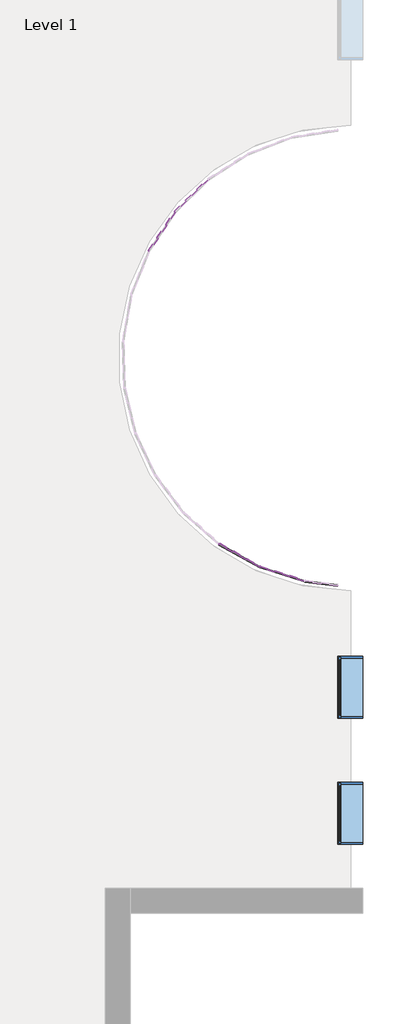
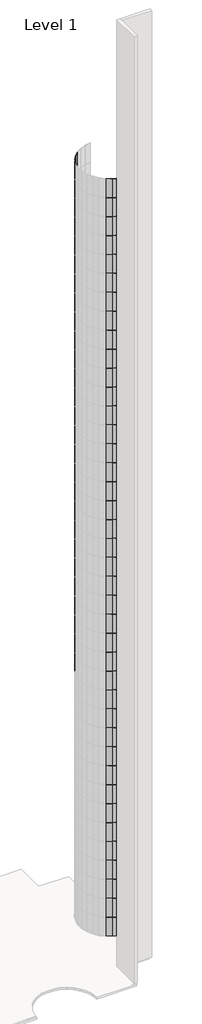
# One storey, part 13 of 19: 127 plates, 2 windows.
"""IFC4 building model written with IfcOpenShell, lengths in millimetres."""

from ifc_helpers import new_model, si_unit, origin, place, context, project, spatial, transform, mapped, element, save
from components import system_panel_glazed_d77d1ebf, system_panel_glazed_769dbdec, window_d0035ecf, window_d434eb62

model = new_model("IFC4")

# Units and contexts
model_context = context("Model", 3, world=origin())
ifc_project = project(units=[si_unit("LENGTHUNIT", "METRE", prefix="MILLI")], contexts=[model_context])

# Site, building, storey
site = spatial("IfcSite", under=ifc_project)
building = spatial("IfcBuilding", under=site)
storey = spatial("IfcBuildingStorey", under=building, Name="Level 1", Elevation=0.0)

# Plates
placement = place(None, origin())
system_panel_glazed_shape = system_panel_glazed_d77d1ebf(model_context)
element("IfcPlate", 1, ObjectType="System Panel : Glazed", at=placement, inside=storey, context=model_context, shape_type="MappedRepresentation", body=[
    mapped(system_panel_glazed_shape, transform((16593.6436197, -10047.6579112, 0.0), x_axis=(0.8722386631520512, -0.4890804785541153, 0.0), y_axis=(0.4890804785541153, 0.8722386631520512, 0.0), z_axis=(0.0, 0.0, 1.0))),
])
element("IfcPlate", 2, ObjectType="System Panel : Glazed", at=placement, inside=storey, context=model_context, shape_type="MappedRepresentation", body=[
    mapped(system_panel_glazed_shape, transform((17428.515669, -10408.6049412, 0.0), x_axis=(0.9538156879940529, -0.3003924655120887, 0.0), y_axis=(0.3003924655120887, 0.9538156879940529, 0.0), z_axis=(0.0, 0.0, 1.0))),
])
element("IfcPlate", 3, ObjectType="System Panel : Glazed", at=placement, inside=storey, context=model_context, shape_type="MappedRepresentation", body=[
    mapped(system_panel_glazed_shape, transform((16593.6436197, -10047.6579112, 3048.0), x_axis=(0.8722386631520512, -0.4890804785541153, 0.0), y_axis=(0.4890804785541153, 0.8722386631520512, 0.0), z_axis=(0.0, 0.0, 1.0))),
])
element("IfcPlate", 4, ObjectType="System Panel : Glazed", at=placement, inside=storey, context=model_context, shape_type="MappedRepresentation", body=[
    mapped(system_panel_glazed_shape, transform((17428.515669, -10408.6049412, 3048.0), x_axis=(0.9538156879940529, -0.3003924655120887, 0.0), y_axis=(0.3003924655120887, 0.9538156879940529, 0.0), z_axis=(0.0, 0.0, 1.0))),
])
element("IfcPlate", 5, ObjectType="System Panel : Glazed", at=placement, inside=storey, context=model_context, shape_type="MappedRepresentation", body=[
    mapped(system_panel_glazed_shape, transform((16593.6436197, -10047.6579112, 6096.0), x_axis=(0.8722386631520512, -0.4890804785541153, 0.0), y_axis=(0.4890804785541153, 0.8722386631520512, 0.0), z_axis=(0.0, 0.0, 1.0))),
])
element("IfcPlate", 6, ObjectType="System Panel : Glazed", at=placement, inside=storey, context=model_context, shape_type="MappedRepresentation", body=[
    mapped(system_panel_glazed_shape, transform((17428.515669, -10408.6049412, 6096.0), x_axis=(0.9538156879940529, -0.3003924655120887, 0.0), y_axis=(0.3003924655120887, 0.9538156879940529, 0.0), z_axis=(0.0, 0.0, 1.0))),
])
element("IfcPlate", 7, ObjectType="System Panel : Glazed", at=placement, inside=storey, context=model_context, shape_type="MappedRepresentation", body=[
    mapped(system_panel_glazed_shape, transform((16593.6436197, -10047.6579112, 9144.0), x_axis=(0.8722386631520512, -0.4890804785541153, 0.0), y_axis=(0.4890804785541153, 0.8722386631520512, 0.0), z_axis=(0.0, 0.0, 1.0))),
])
element("IfcPlate", 8, ObjectType="System Panel : Glazed", at=placement, inside=storey, context=model_context, shape_type="MappedRepresentation", body=[
    mapped(system_panel_glazed_shape, transform((17428.515669, -10408.6049412, 9144.0), x_axis=(0.9538156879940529, -0.3003924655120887, 0.0), y_axis=(0.3003924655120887, 0.9538156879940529, 0.0), z_axis=(0.0, 0.0, 1.0))),
])
element("IfcPlate", 9, ObjectType="System Panel : Glazed", at=placement, inside=storey, context=model_context, shape_type="MappedRepresentation", body=[
    mapped(system_panel_glazed_shape, transform((16593.6436197, -10047.6579112, 12192.0), x_axis=(0.8722386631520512, -0.4890804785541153, 0.0), y_axis=(0.4890804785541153, 0.8722386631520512, 0.0), z_axis=(0.0, 0.0, 1.0))),
])
element("IfcPlate", 10, ObjectType="System Panel : Glazed", at=placement, inside=storey, context=model_context, shape_type="MappedRepresentation", body=[
    mapped(system_panel_glazed_shape, transform((17428.515669, -10408.6049412, 12192.0), x_axis=(0.9538156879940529, -0.3003924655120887, 0.0), y_axis=(0.3003924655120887, 0.9538156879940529, 0.0), z_axis=(0.0, 0.0, 1.0))),
])
element("IfcPlate", 11, ObjectType="System Panel : Glazed", at=placement, inside=storey, context=model_context, shape_type="MappedRepresentation", body=[
    mapped(system_panel_glazed_shape, transform((16593.6436197, -10047.6579112, 15240.0), x_axis=(0.8722386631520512, -0.4890804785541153, 0.0), y_axis=(0.4890804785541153, 0.8722386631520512, 0.0), z_axis=(0.0, 0.0, 1.0))),
])
element("IfcPlate", 12, ObjectType="System Panel : Glazed", at=placement, inside=storey, context=model_context, shape_type="MappedRepresentation", body=[
    mapped(system_panel_glazed_shape, transform((17428.515669, -10408.6049412, 15240.0), x_axis=(0.9538156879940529, -0.3003924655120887, 0.0), y_axis=(0.3003924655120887, 0.9538156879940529, 0.0), z_axis=(0.0, 0.0, 1.0))),
])
element("IfcPlate", 13, ObjectType="System Panel : Glazed", at=placement, inside=storey, context=model_context, shape_type="MappedRepresentation", body=[
    mapped(system_panel_glazed_shape, transform((16593.6436197, -10047.6579112, 18288.0), x_axis=(0.8722386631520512, -0.4890804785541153, 0.0), y_axis=(0.4890804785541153, 0.8722386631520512, 0.0), z_axis=(0.0, 0.0, 1.0))),
])
element("IfcPlate", 14, ObjectType="System Panel : Glazed", at=placement, inside=storey, context=model_context, shape_type="MappedRepresentation", body=[
    mapped(system_panel_glazed_shape, transform((17428.515669, -10408.6049412, 18288.0), x_axis=(0.9538156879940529, -0.30039246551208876, 0.0), y_axis=(0.30039246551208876, 0.9538156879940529, 0.0), z_axis=(0.0, 0.0, 1.0))),
])
element("IfcPlate", 15, ObjectType="System Panel : Glazed", at=placement, inside=storey, context=model_context, shape_type="MappedRepresentation", body=[
    mapped(system_panel_glazed_shape, transform((16593.6436197, -10047.6579112, 21336.0), x_axis=(0.8722386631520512, -0.4890804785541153, 0.0), y_axis=(0.4890804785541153, 0.8722386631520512, 0.0), z_axis=(0.0, 0.0, 1.0))),
])
element("IfcPlate", 16, ObjectType="System Panel : Glazed", at=placement, inside=storey, context=model_context, shape_type="MappedRepresentation", body=[
    mapped(system_panel_glazed_shape, transform((17428.515669, -10408.6049412, 21336.0), x_axis=(0.9538156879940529, -0.3003924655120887, 0.0), y_axis=(0.3003924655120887, 0.9538156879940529, 0.0), z_axis=(0.0, 0.0, 1.0))),
])
element("IfcPlate", 17, ObjectType="System Panel : Glazed", at=placement, inside=storey, context=model_context, shape_type="MappedRepresentation", body=[
    mapped(system_panel_glazed_shape, transform((16593.6436197, -10047.6579112, 24384.0), x_axis=(0.8722386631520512, -0.4890804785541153, 0.0), y_axis=(0.4890804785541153, 0.8722386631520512, 0.0), z_axis=(0.0, 0.0, 1.0))),
])
element("IfcPlate", 18, ObjectType="System Panel : Glazed", at=placement, inside=storey, context=model_context, shape_type="MappedRepresentation", body=[
    mapped(system_panel_glazed_shape, transform((17428.515669, -10408.6049412, 24384.0), x_axis=(0.9538156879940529, -0.3003924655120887, 0.0), y_axis=(0.3003924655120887, 0.9538156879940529, 0.0), z_axis=(0.0, 0.0, 1.0))),
])
element("IfcPlate", 19, ObjectType="System Panel : Glazed", at=placement, inside=storey, context=model_context, shape_type="MappedRepresentation", body=[
    mapped(system_panel_glazed_shape, transform((16593.6436197, -10047.6579112, 27432.0), x_axis=(0.8722386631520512, -0.4890804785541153, 0.0), y_axis=(0.4890804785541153, 0.8722386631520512, 0.0), z_axis=(0.0, 0.0, 1.0))),
])
element("IfcPlate", 20, ObjectType="System Panel : Glazed", at=placement, inside=storey, context=model_context, shape_type="MappedRepresentation", body=[
    mapped(system_panel_glazed_shape, transform((17428.515669, -10408.6049412, 27432.0), x_axis=(0.9538156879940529, -0.3003924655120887, 0.0), y_axis=(0.3003924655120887, 0.9538156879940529, 0.0), z_axis=(0.0, 0.0, 1.0))),
])
element("IfcPlate", 21, ObjectType="System Panel : Glazed", at=placement, inside=storey, context=model_context, shape_type="MappedRepresentation", body=[
    mapped(system_panel_glazed_shape, transform((16593.6436197, -10047.6579112, 30480.0), x_axis=(0.8722386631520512, -0.4890804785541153, 0.0), y_axis=(0.4890804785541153, 0.8722386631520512, 0.0), z_axis=(0.0, 0.0, 1.0))),
])
element("IfcPlate", 22, ObjectType="System Panel : Glazed", at=placement, inside=storey, context=model_context, shape_type="MappedRepresentation", body=[
    mapped(system_panel_glazed_shape, transform((17428.515669, -10408.6049412, 30480.0), x_axis=(0.9538156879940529, -0.3003924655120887, 0.0), y_axis=(0.3003924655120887, 0.9538156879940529, 0.0), z_axis=(0.0, 0.0, 1.0))),
])
element("IfcPlate", 23, ObjectType="System Panel : Glazed", at=placement, inside=storey, context=model_context, shape_type="MappedRepresentation", body=[
    mapped(system_panel_glazed_shape, transform((16593.6436197, -10047.6579112, 33528.0), x_axis=(0.8722386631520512, -0.4890804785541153, 0.0), y_axis=(0.4890804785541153, 0.8722386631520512, 0.0), z_axis=(0.0, 0.0, 1.0))),
])
element("IfcPlate", 24, ObjectType="System Panel : Glazed", at=placement, inside=storey, context=model_context, shape_type="MappedRepresentation", body=[
    mapped(system_panel_glazed_shape, transform((17428.515669, -10408.6049412, 33528.0), x_axis=(0.9538156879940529, -0.3003924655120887, 0.0), y_axis=(0.3003924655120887, 0.9538156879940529, 0.0), z_axis=(0.0, 0.0, 1.0))),
])
element("IfcPlate", 25, ObjectType="System Panel : Glazed", at=placement, inside=storey, context=model_context, shape_type="MappedRepresentation", body=[
    mapped(system_panel_glazed_shape, transform((16593.6436197, -10047.6579112, 36576.0), x_axis=(0.8722386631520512, -0.4890804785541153, 0.0), y_axis=(0.4890804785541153, 0.8722386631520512, 0.0), z_axis=(0.0, 0.0, 1.0))),
])
element("IfcPlate", 26, ObjectType="System Panel : Glazed", at=placement, inside=storey, context=model_context, shape_type="MappedRepresentation", body=[
    mapped(system_panel_glazed_shape, transform((17428.515669, -10408.6049412, 36576.0), x_axis=(0.9538156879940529, -0.3003924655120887, 0.0), y_axis=(0.3003924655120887, 0.9538156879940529, 0.0), z_axis=(0.0, 0.0, 1.0))),
])
element("IfcPlate", 27, ObjectType="System Panel : Glazed", at=placement, inside=storey, context=model_context, shape_type="MappedRepresentation", body=[
    mapped(system_panel_glazed_shape, transform((16593.6436197, -10047.6579112, 39624.0), x_axis=(0.8722386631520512, -0.4890804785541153, 0.0), y_axis=(0.4890804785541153, 0.8722386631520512, 0.0), z_axis=(0.0, 0.0, 1.0))),
])
element("IfcPlate", 28, ObjectType="System Panel : Glazed", at=placement, inside=storey, context=model_context, shape_type="MappedRepresentation", body=[
    mapped(system_panel_glazed_shape, transform((17428.515669, -10408.6049412, 39624.0), x_axis=(0.9538156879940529, -0.3003924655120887, 0.0), y_axis=(0.3003924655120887, 0.9538156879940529, 0.0), z_axis=(0.0, 0.0, 1.0))),
])
element("IfcPlate", 29, ObjectType="System Panel : Glazed", at=placement, inside=storey, context=model_context, shape_type="MappedRepresentation", body=[
    mapped(system_panel_glazed_shape, transform((16593.6436197, -10047.6579112, 42672.0), x_axis=(0.8722386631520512, -0.4890804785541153, 0.0), y_axis=(0.4890804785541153, 0.8722386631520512, 0.0), z_axis=(0.0, 0.0, 1.0))),
])
element("IfcPlate", 30, ObjectType="System Panel : Glazed", at=placement, inside=storey, context=model_context, shape_type="MappedRepresentation", body=[
    mapped(system_panel_glazed_shape, transform((17428.515669, -10408.6049412, 42672.0), x_axis=(0.9538156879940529, -0.3003924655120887, 0.0), y_axis=(0.3003924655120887, 0.9538156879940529, 0.0), z_axis=(0.0, 0.0, 1.0))),
])
element("IfcPlate", 31, ObjectType="System Panel : Glazed", at=placement, inside=storey, context=model_context, shape_type="MappedRepresentation", body=[
    mapped(system_panel_glazed_shape, transform((16593.6436197, -10047.6579112, 45720.0), x_axis=(0.8722386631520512, -0.4890804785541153, 0.0), y_axis=(0.4890804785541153, 0.8722386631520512, 0.0), z_axis=(0.0, 0.0, 1.0))),
])
element("IfcPlate", 32, ObjectType="System Panel : Glazed", at=placement, inside=storey, context=model_context, shape_type="MappedRepresentation", body=[
    mapped(system_panel_glazed_shape, transform((17428.515669, -10408.6049412, 45720.0), x_axis=(0.9538156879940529, -0.3003924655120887, 0.0), y_axis=(0.3003924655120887, 0.9538156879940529, 0.0), z_axis=(0.0, 0.0, 1.0))),
])
element("IfcPlate", 33, ObjectType="System Panel : Glazed", at=placement, inside=storey, context=model_context, shape_type="MappedRepresentation", body=[
    mapped(system_panel_glazed_shape, transform((16593.6436197, -10047.6579112, 48768.0), x_axis=(0.8722386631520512, -0.4890804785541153, 0.0), y_axis=(0.4890804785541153, 0.8722386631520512, 0.0), z_axis=(0.0, 0.0, 1.0))),
])
element("IfcPlate", 34, ObjectType="System Panel : Glazed", at=placement, inside=storey, context=model_context, shape_type="MappedRepresentation", body=[
    mapped(system_panel_glazed_shape, transform((17428.515669, -10408.6049412, 48768.0), x_axis=(0.9538156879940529, -0.3003924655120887, 0.0), y_axis=(0.3003924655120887, 0.9538156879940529, 0.0), z_axis=(0.0, 0.0, 1.0))),
])
element("IfcPlate", 35, ObjectType="System Panel : Glazed", at=placement, inside=storey, context=model_context, shape_type="MappedRepresentation", body=[
    mapped(system_panel_glazed_shape, transform((16593.6436197, -10047.6579112, 51816.0), x_axis=(0.8722386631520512, -0.4890804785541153, 0.0), y_axis=(0.4890804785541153, 0.8722386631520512, 0.0), z_axis=(0.0, 0.0, 1.0))),
])
element("IfcPlate", 36, ObjectType="System Panel : Glazed", at=placement, inside=storey, context=model_context, shape_type="MappedRepresentation", body=[
    mapped(system_panel_glazed_shape, transform((17428.515669, -10408.6049412, 51816.0), x_axis=(0.9538156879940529, -0.3003924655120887, 0.0), y_axis=(0.3003924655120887, 0.9538156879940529, 0.0), z_axis=(0.0, 0.0, 1.0))),
])
element("IfcPlate", 37, ObjectType="System Panel : Glazed", at=placement, inside=storey, context=model_context, shape_type="MappedRepresentation", body=[
    mapped(system_panel_glazed_shape, transform((16593.6436197, -10047.6579112, 54864.0), x_axis=(0.8722386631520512, -0.4890804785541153, 0.0), y_axis=(0.4890804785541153, 0.8722386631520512, 0.0), z_axis=(0.0, 0.0, 1.0))),
])
element("IfcPlate", 38, ObjectType="System Panel : Glazed", at=placement, inside=storey, context=model_context, shape_type="MappedRepresentation", body=[
    mapped(system_panel_glazed_shape, transform((17428.515669, -10408.6049412, 54864.0), x_axis=(0.9538156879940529, -0.3003924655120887, 0.0), y_axis=(0.3003924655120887, 0.9538156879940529, 0.0), z_axis=(0.0, 0.0, 1.0))),
])
element("IfcPlate", 39, ObjectType="System Panel : Glazed", at=placement, inside=storey, context=model_context, shape_type="MappedRepresentation", body=[
    mapped(system_panel_glazed_shape, transform((16593.6436197, -10047.6579112, 57912.0), x_axis=(0.8722386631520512, -0.4890804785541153, 0.0), y_axis=(0.4890804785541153, 0.8722386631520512, 0.0), z_axis=(0.0, 0.0, 1.0))),
])
element("IfcPlate", 40, ObjectType="System Panel : Glazed", at=placement, inside=storey, context=model_context, shape_type="MappedRepresentation", body=[
    mapped(system_panel_glazed_shape, transform((17428.515669, -10408.6049412, 57912.0), x_axis=(0.9538156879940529, -0.3003924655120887, 0.0), y_axis=(0.3003924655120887, 0.9538156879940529, 0.0), z_axis=(0.0, 0.0, 1.0))),
])
element("IfcPlate", 41, ObjectType="System Panel : Glazed", at=placement, inside=storey, context=model_context, shape_type="MappedRepresentation", body=[
    mapped(system_panel_glazed_shape, transform((16593.6436197, -10047.6579112, 60960.0), x_axis=(0.8722386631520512, -0.4890804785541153, 0.0), y_axis=(0.4890804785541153, 0.8722386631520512, 0.0), z_axis=(0.0, 0.0, 1.0))),
])
element("IfcPlate", 42, ObjectType="System Panel : Glazed", at=placement, inside=storey, context=model_context, shape_type="MappedRepresentation", body=[
    mapped(system_panel_glazed_shape, transform((17428.515669, -10408.6049412, 60960.0), x_axis=(0.9538156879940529, -0.3003924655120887, 0.0), y_axis=(0.3003924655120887, 0.9538156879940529, 0.0), z_axis=(0.0, 0.0, 1.0))),
])
element("IfcPlate", 43, ObjectType="System Panel : Glazed", at=placement, inside=storey, context=model_context, shape_type="MappedRepresentation", body=[
    mapped(system_panel_glazed_shape, transform((16593.6436197, -10047.6579112, 64008.0), x_axis=(0.8722386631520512, -0.4890804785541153, 0.0), y_axis=(0.4890804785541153, 0.8722386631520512, 0.0), z_axis=(0.0, 0.0, 1.0))),
])
element("IfcPlate", 44, ObjectType="System Panel : Glazed", at=placement, inside=storey, context=model_context, shape_type="MappedRepresentation", body=[
    mapped(system_panel_glazed_shape, transform((17428.515669, -10408.6049412, 64008.0), x_axis=(0.9538156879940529, -0.3003924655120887, 0.0), y_axis=(0.3003924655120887, 0.9538156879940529, 0.0), z_axis=(0.0, 0.0, 1.0))),
])
element("IfcPlate", 45, ObjectType="System Panel : Glazed", at=placement, inside=storey, context=model_context, shape_type="MappedRepresentation", body=[
    mapped(system_panel_glazed_shape, transform((16593.6436197, -10047.6579112, 67056.0), x_axis=(0.8722386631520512, -0.4890804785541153, 0.0), y_axis=(0.4890804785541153, 0.8722386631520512, 0.0), z_axis=(0.0, 0.0, 1.0))),
])
element("IfcPlate", 46, ObjectType="System Panel : Glazed", at=placement, inside=storey, context=model_context, shape_type="MappedRepresentation", body=[
    mapped(system_panel_glazed_shape, transform((17428.515669, -10408.6049412, 67056.0), x_axis=(0.9538156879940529, -0.3003924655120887, 0.0), y_axis=(0.3003924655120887, 0.9538156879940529, 0.0), z_axis=(0.0, 0.0, 1.0))),
])
element("IfcPlate", 47, ObjectType="System Panel : Glazed", at=placement, inside=storey, context=model_context, shape_type="MappedRepresentation", body=[
    mapped(system_panel_glazed_shape, transform((16593.6436197, -10047.6579112, 70104.0), x_axis=(0.8722386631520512, -0.4890804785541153, 0.0), y_axis=(0.4890804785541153, 0.8722386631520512, 0.0), z_axis=(0.0, 0.0, 1.0))),
])
element("IfcPlate", 48, ObjectType="System Panel : Glazed", at=placement, inside=storey, context=model_context, shape_type="MappedRepresentation", body=[
    mapped(system_panel_glazed_shape, transform((17428.515669, -10408.6049412, 70104.0), x_axis=(0.9538156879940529, -0.3003924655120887, 0.0), y_axis=(0.3003924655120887, 0.9538156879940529, 0.0), z_axis=(0.0, 0.0, 1.0))),
])
element("IfcPlate", 49, ObjectType="System Panel : Glazed", at=placement, inside=storey, context=model_context, shape_type="MappedRepresentation", body=[
    mapped(system_panel_glazed_shape, transform((16593.6436197, -10047.6579112, 73152.0), x_axis=(0.8722386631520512, -0.4890804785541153, 0.0), y_axis=(0.4890804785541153, 0.8722386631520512, 0.0), z_axis=(0.0, 0.0, 1.0))),
])
element("IfcPlate", 50, ObjectType="System Panel : Glazed", at=placement, inside=storey, context=model_context, shape_type="MappedRepresentation", body=[
    mapped(system_panel_glazed_shape, transform((17428.515669, -10408.6049412, 73152.0), x_axis=(0.9538156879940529, -0.3003924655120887, 0.0), y_axis=(0.3003924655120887, 0.9538156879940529, 0.0), z_axis=(0.0, 0.0, 1.0))),
])
element("IfcPlate", 51, ObjectType="System Panel : Glazed", at=placement, inside=storey, context=model_context, shape_type="MappedRepresentation", body=[
    mapped(system_panel_glazed_shape, transform((16593.6436197, -10047.6579112, 76200.0), x_axis=(0.8722386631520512, -0.4890804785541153, 0.0), y_axis=(0.4890804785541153, 0.8722386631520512, 0.0), z_axis=(0.0, 0.0, 1.0))),
])
element("IfcPlate", 52, ObjectType="System Panel : Glazed", at=placement, inside=storey, context=model_context, shape_type="MappedRepresentation", body=[
    mapped(system_panel_glazed_shape, transform((17428.515669, -10408.6049412, 76200.0), x_axis=(0.9538156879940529, -0.3003924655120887, 0.0), y_axis=(0.3003924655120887, 0.9538156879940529, 0.0), z_axis=(0.0, 0.0, 1.0))),
])
element("IfcPlate", 53, ObjectType="System Panel : Glazed", at=placement, inside=storey, context=model_context, shape_type="MappedRepresentation", body=[
    mapped(system_panel_glazed_shape, transform((16593.6436197, -10047.6579112, 79248.0), x_axis=(0.8722386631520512, -0.4890804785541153, 0.0), y_axis=(0.4890804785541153, 0.8722386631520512, 0.0), z_axis=(0.0, 0.0, 1.0))),
])
element("IfcPlate", 54, ObjectType="System Panel : Glazed", at=placement, inside=storey, context=model_context, shape_type="MappedRepresentation", body=[
    mapped(system_panel_glazed_shape, transform((17428.515669, -10408.6049412, 79248.0), x_axis=(0.9538156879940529, -0.3003924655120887, 0.0), y_axis=(0.3003924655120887, 0.9538156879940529, 0.0), z_axis=(0.0, 0.0, 1.0))),
])
element("IfcPlate", 55, ObjectType="System Panel : Glazed", at=placement, inside=storey, context=model_context, shape_type="MappedRepresentation", body=[
    mapped(system_panel_glazed_shape, transform((16593.6436197, -10047.6579112, 82296.0), x_axis=(0.8722386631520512, -0.4890804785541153, 0.0), y_axis=(0.4890804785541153, 0.8722386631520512, 0.0), z_axis=(0.0, 0.0, 1.0))),
])
element("IfcPlate", 56, ObjectType="System Panel : Glazed", at=placement, inside=storey, context=model_context, shape_type="MappedRepresentation", body=[
    mapped(system_panel_glazed_shape, transform((17428.515669, -10408.6049412, 82296.0), x_axis=(0.9538156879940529, -0.3003924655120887, 0.0), y_axis=(0.3003924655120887, 0.9538156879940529, 0.0), z_axis=(0.0, 0.0, 1.0))),
])
element("IfcPlate", 57, ObjectType="System Panel : Glazed", at=placement, inside=storey, context=model_context, shape_type="MappedRepresentation", body=[
    mapped(system_panel_glazed_shape, transform((16593.6436197, -10047.6579112, 85344.0), x_axis=(0.8722386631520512, -0.4890804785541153, 0.0), y_axis=(0.4890804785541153, 0.8722386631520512, 0.0), z_axis=(0.0, 0.0, 1.0))),
])
element("IfcPlate", 58, ObjectType="System Panel : Glazed", at=placement, inside=storey, context=model_context, shape_type="MappedRepresentation", body=[
    mapped(system_panel_glazed_shape, transform((17428.515669, -10408.6049412, 85344.0), x_axis=(0.9538156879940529, -0.3003924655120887, 0.0), y_axis=(0.3003924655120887, 0.9538156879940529, 0.0), z_axis=(0.0, 0.0, 1.0))),
])
element("IfcPlate", 59, ObjectType="System Panel : Glazed", at=placement, inside=storey, context=model_context, shape_type="MappedRepresentation", body=[
    mapped(system_panel_glazed_shape, transform((16593.6436197, -10047.6579112, 88392.0), x_axis=(0.8722386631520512, -0.4890804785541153, 0.0), y_axis=(0.4890804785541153, 0.8722386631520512, 0.0), z_axis=(0.0, 0.0, 1.0))),
])
element("IfcPlate", 60, ObjectType="System Panel : Glazed", at=placement, inside=storey, context=model_context, shape_type="MappedRepresentation", body=[
    mapped(system_panel_glazed_shape, transform((17428.515669, -10408.6049412, 88392.0), x_axis=(0.9538156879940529, -0.3003924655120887, 0.0), y_axis=(0.3003924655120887, 0.9538156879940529, 0.0), z_axis=(0.0, 0.0, 1.0))),
])
element("IfcPlate", 61, ObjectType="System Panel : Glazed", at=placement, inside=storey, context=model_context, shape_type="MappedRepresentation", body=[
    mapped(system_panel_glazed_shape, transform((16593.6436197, -10047.6579112, 91440.0), x_axis=(0.8722386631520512, -0.4890804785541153, 0.0), y_axis=(0.4890804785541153, 0.8722386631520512, 0.0), z_axis=(0.0, 0.0, 1.0))),
])
element("IfcPlate", 62, ObjectType="System Panel : Glazed", at=placement, inside=storey, context=model_context, shape_type="MappedRepresentation", body=[
    mapped(system_panel_glazed_shape, transform((17428.515669, -10408.6049412, 91440.0), x_axis=(0.9538156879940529, -0.3003924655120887, 0.0), y_axis=(0.3003924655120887, 0.9538156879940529, 0.0), z_axis=(0.0, 0.0, 1.0))),
])
element("IfcPlate", 63, ObjectType="System Panel : Glazed", at=placement, inside=storey, context=model_context, shape_type="MappedRepresentation", body=[
    mapped(system_panel_glazed_shape, transform((16593.6436197, -10047.6579112, 94488.0), x_axis=(0.8722386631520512, -0.4890804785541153, 0.0), y_axis=(0.4890804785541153, 0.8722386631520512, 0.0), z_axis=(0.0, 0.0, 1.0))),
])
element("IfcPlate", 64, ObjectType="System Panel : Glazed", at=placement, inside=storey, context=model_context, shape_type="MappedRepresentation", body=[
    mapped(system_panel_glazed_shape, transform((17428.515669, -10408.6049412, 94488.0), x_axis=(0.9538156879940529, -0.3003924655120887, 0.0), y_axis=(0.3003924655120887, 0.9538156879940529, 0.0), z_axis=(0.0, 0.0, 1.0))),
])
element("IfcPlate", 65, ObjectType="System Panel : Glazed", at=placement, inside=storey, context=model_context, shape_type="MappedRepresentation", body=[
    mapped(system_panel_glazed_shape, transform((16593.6436197, -10047.6579112, 97536.0), x_axis=(0.8722386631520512, -0.4890804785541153, 0.0), y_axis=(0.4890804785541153, 0.8722386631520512, 0.0), z_axis=(0.0, 0.0, 1.0))),
])
element("IfcPlate", 66, ObjectType="System Panel : Glazed", at=placement, inside=storey, context=model_context, shape_type="MappedRepresentation", body=[
    mapped(system_panel_glazed_shape, transform((17428.515669, -10408.6049412, 97536.0), x_axis=(0.9538156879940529, -0.3003924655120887, 0.0), y_axis=(0.3003924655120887, 0.9538156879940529, 0.0), z_axis=(0.0, 0.0, 1.0))),
])
element("IfcPlate", 67, ObjectType="System Panel : Glazed", at=placement, inside=storey, context=model_context, shape_type="MappedRepresentation", body=[
    mapped(system_panel_glazed_shape, transform((16593.6436197, -10047.6579112, 100584.0), x_axis=(0.8722386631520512, -0.4890804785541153, 0.0), y_axis=(0.4890804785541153, 0.8722386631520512, 0.0), z_axis=(0.0, 0.0, 1.0))),
])
element("IfcPlate", 68, ObjectType="System Panel : Glazed", at=placement, inside=storey, context=model_context, shape_type="MappedRepresentation", body=[
    mapped(system_panel_glazed_shape, transform((17428.515669, -10408.6049412, 100584.0), x_axis=(0.9538156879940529, -0.3003924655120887, 0.0), y_axis=(0.3003924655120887, 0.9538156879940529, 0.0), z_axis=(0.0, 0.0, 1.0))),
])
element("IfcPlate", 69, ObjectType="System Panel : Glazed", at=placement, inside=storey, context=model_context, shape_type="MappedRepresentation", body=[
    mapped(system_panel_glazed_shape, transform((15075.3618251, -3735.1593958, 39624.0), x_axis=(-0.5544383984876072, -0.8322247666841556, 0.0), y_axis=(0.8322247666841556, -0.5544383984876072, 0.0), z_axis=(0.0, 0.0, 1.0))),
])
element("IfcPlate", 70, ObjectType="System Panel : Glazed", at=placement, inside=storey, context=model_context, shape_type="MappedRepresentation", body=[
    mapped(system_panel_glazed_shape, transform((15075.3618251, -3735.1593958, 42672.0), x_axis=(-0.5544383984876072, -0.8322247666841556, 0.0), y_axis=(0.8322247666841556, -0.5544383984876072, 0.0), z_axis=(0.0, 0.0, 1.0))),
])
element("IfcPlate", 71, ObjectType="System Panel : Glazed", at=placement, inside=storey, context=model_context, shape_type="MappedRepresentation", body=[
    mapped(system_panel_glazed_shape, transform((15075.3618251, -3735.1593958, 45720.0), x_axis=(-0.5544383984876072, -0.8322247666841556, 0.0), y_axis=(0.8322247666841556, -0.5544383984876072, 0.0), z_axis=(0.0, 0.0, 1.0))),
])
element("IfcPlate", 72, ObjectType="System Panel : Glazed", at=placement, inside=storey, context=model_context, shape_type="MappedRepresentation", body=[
    mapped(system_panel_glazed_shape, transform((15075.3618251, -3735.1593958, 48768.0), x_axis=(-0.5544383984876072, -0.8322247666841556, 0.0), y_axis=(0.8322247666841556, -0.5544383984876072, 0.0), z_axis=(0.0, 0.0, 1.0))),
])
element("IfcPlate", 73, ObjectType="System Panel : Glazed", at=placement, inside=storey, context=model_context, shape_type="MappedRepresentation", body=[
    mapped(system_panel_glazed_shape, transform((15075.3618251, -3735.1593958, 51816.0), x_axis=(-0.5544383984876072, -0.8322247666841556, 0.0), y_axis=(0.8322247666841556, -0.5544383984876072, 0.0), z_axis=(0.0, 0.0, 1.0))),
])
element("IfcPlate", 74, ObjectType="System Panel : Glazed", at=placement, inside=storey, context=model_context, shape_type="MappedRepresentation", body=[
    mapped(system_panel_glazed_shape, transform((15075.3618251, -3735.1593958, 54864.0), x_axis=(-0.5544383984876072, -0.8322247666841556, 0.0), y_axis=(0.8322247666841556, -0.5544383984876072, 0.0), z_axis=(0.0, 0.0, 1.0))),
])
element("IfcPlate", 75, ObjectType="System Panel : Glazed", at=placement, inside=storey, context=model_context, shape_type="MappedRepresentation", body=[
    mapped(system_panel_glazed_shape, transform((15075.3618251, -3735.1593958, 57912.0), x_axis=(-0.5544383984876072, -0.8322247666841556, 0.0), y_axis=(0.8322247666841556, -0.5544383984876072, 0.0), z_axis=(0.0, 0.0, 1.0))),
])
element("IfcPlate", 76, ObjectType="System Panel : Glazed", at=placement, inside=storey, context=model_context, shape_type="MappedRepresentation", body=[
    mapped(system_panel_glazed_shape, transform((15075.3618251, -3735.1593958, 60960.0), x_axis=(-0.5544383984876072, -0.8322247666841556, 0.0), y_axis=(0.8322247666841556, -0.5544383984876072, 0.0), z_axis=(0.0, 0.0, 1.0))),
])
element("IfcPlate", 77, ObjectType="System Panel : Glazed", at=placement, inside=storey, context=model_context, shape_type="MappedRepresentation", body=[
    mapped(system_panel_glazed_shape, transform((15075.3618251, -3735.1593958, 64008.0), x_axis=(-0.5544383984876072, -0.8322247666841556, 0.0), y_axis=(0.8322247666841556, -0.5544383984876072, 0.0), z_axis=(0.0, 0.0, 1.0))),
])
element("IfcPlate", 78, ObjectType="System Panel : Glazed", at=placement, inside=storey, context=model_context, shape_type="MappedRepresentation", body=[
    mapped(system_panel_glazed_shape, transform((15075.3618251, -3735.1593958, 67056.0), x_axis=(-0.5544383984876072, -0.8322247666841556, 0.0), y_axis=(0.8322247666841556, -0.5544383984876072, 0.0), z_axis=(0.0, 0.0, 1.0))),
])
element("IfcPlate", 79, ObjectType="System Panel : Glazed", at=placement, inside=storey, context=model_context, shape_type="MappedRepresentation", body=[
    mapped(system_panel_glazed_shape, transform((15075.3618251, -3735.1593958, 70104.0), x_axis=(-0.5544383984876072, -0.8322247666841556, 0.0), y_axis=(0.8322247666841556, -0.5544383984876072, 0.0), z_axis=(0.0, 0.0, 1.0))),
])
element("IfcPlate", 80, ObjectType="System Panel : Glazed", at=placement, inside=storey, context=model_context, shape_type="MappedRepresentation", body=[
    mapped(system_panel_glazed_shape, transform((15075.3618251, -3735.1593958, 73152.0), x_axis=(-0.5544383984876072, -0.8322247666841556, 0.0), y_axis=(0.8322247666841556, -0.5544383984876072, 0.0), z_axis=(0.0, 0.0, 1.0))),
])
element("IfcPlate", 81, ObjectType="System Panel : Glazed", at=placement, inside=storey, context=model_context, shape_type="MappedRepresentation", body=[
    mapped(system_panel_glazed_shape, transform((15075.3618251, -3735.1593958, 76200.0), x_axis=(-0.5544383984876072, -0.8322247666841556, 0.0), y_axis=(0.8322247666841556, -0.5544383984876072, 0.0), z_axis=(0.0, 0.0, 1.0))),
])
element("IfcPlate", 82, ObjectType="System Panel : Glazed", at=placement, inside=storey, context=model_context, shape_type="MappedRepresentation", body=[
    mapped(system_panel_glazed_shape, transform((15075.3618251, -3735.1593958, 79248.0), x_axis=(-0.5544383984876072, -0.8322247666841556, 0.0), y_axis=(0.8322247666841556, -0.5544383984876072, 0.0), z_axis=(0.0, 0.0, 1.0))),
])
element("IfcPlate", 83, ObjectType="System Panel : Glazed", at=placement, inside=storey, context=model_context, shape_type="MappedRepresentation", body=[
    mapped(system_panel_glazed_shape, transform((15075.3618251, -3735.1593958, 82296.0), x_axis=(-0.5544383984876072, -0.8322247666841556, 0.0), y_axis=(0.8322247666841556, -0.5544383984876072, 0.0), z_axis=(0.0, 0.0, 1.0))),
])
element("IfcPlate", 84, ObjectType="System Panel : Glazed", at=placement, inside=storey, context=model_context, shape_type="MappedRepresentation", body=[
    mapped(system_panel_glazed_shape, transform((15075.3618251, -3735.1593958, 85344.0), x_axis=(-0.5544383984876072, -0.8322247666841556, 0.0), y_axis=(0.8322247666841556, -0.5544383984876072, 0.0), z_axis=(0.0, 0.0, 1.0))),
])
element("IfcPlate", 85, ObjectType="System Panel : Glazed", at=placement, inside=storey, context=model_context, shape_type="MappedRepresentation", body=[
    mapped(system_panel_glazed_shape, transform((15075.3618251, -3735.1593958, 88392.0), x_axis=(-0.5544383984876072, -0.8322247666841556, 0.0), y_axis=(0.8322247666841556, -0.5544383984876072, 0.0), z_axis=(0.0, 0.0, 1.0))),
])
element("IfcPlate", 86, ObjectType="System Panel : Glazed", at=placement, inside=storey, context=model_context, shape_type="MappedRepresentation", body=[
    mapped(system_panel_glazed_shape, transform((15075.3618251, -3735.1593958, 91440.0), x_axis=(-0.5544383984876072, -0.8322247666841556, 0.0), y_axis=(0.8322247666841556, -0.5544383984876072, 0.0), z_axis=(0.0, 0.0, 1.0))),
])
element("IfcPlate", 87, ObjectType="System Panel : Glazed", at=placement, inside=storey, context=model_context, shape_type="MappedRepresentation", body=[
    mapped(system_panel_glazed_shape, transform((15075.3618251, -3735.1593958, 94488.0), x_axis=(-0.5544383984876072, -0.8322247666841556, 0.0), y_axis=(0.8322247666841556, -0.5544383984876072, 0.0), z_axis=(0.0, 0.0, 1.0))),
])
element("IfcPlate", 88, ObjectType="System Panel : Glazed", at=placement, inside=storey, context=model_context, shape_type="MappedRepresentation", body=[
    mapped(system_panel_glazed_shape, transform((15075.3618251, -3735.1593958, 97536.0), x_axis=(-0.5544383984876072, -0.8322247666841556, 0.0), y_axis=(0.8322247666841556, -0.5544383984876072, 0.0), z_axis=(0.0, 0.0, 1.0))),
])
element("IfcPlate", 89, ObjectType="System Panel : Glazed", at=placement, inside=storey, context=model_context, shape_type="MappedRepresentation", body=[
    mapped(system_panel_glazed_shape, transform((15075.3618251, -3735.1593958, 100584.0), x_axis=(-0.5544383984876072, -0.8322247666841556, 0.0), y_axis=(0.8322247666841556, -0.5544383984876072, 0.0), z_axis=(0.0, 0.0, 1.0))),
])
element("IfcPlate", 90, ObjectType="System Panel : Glazed", at=placement, inside=storey, context=model_context, shape_type="MappedRepresentation", body=[
    mapped(system_panel_glazed_shape, transform((15654.787077, -3034.0456569, 103632.0), x_axis=(-0.7128959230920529, -0.701269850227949, 0.0), y_axis=(0.701269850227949, -0.7128959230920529, 0.0), z_axis=(0.0, 0.0, 1.0))),
])
element("IfcPlate", 91, ObjectType="System Panel : Glazed", at=placement, inside=storey, context=model_context, shape_type="MappedRepresentation", body=[
    mapped(system_panel_glazed_shape, transform((15075.3618251, -3735.1593958, 103632.0), x_axis=(-0.5544383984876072, -0.8322247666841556, 0.0), y_axis=(0.8322247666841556, -0.5544383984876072, 0.0), z_axis=(0.0, 0.0, 1.0))),
])
element("IfcPlate", 92, ObjectType="System Panel : Glazed", at=placement, inside=storey, context=model_context, shape_type="MappedRepresentation", body=[
    mapped(system_panel_glazed_shape, transform((16593.6436197, -10047.6579112, 103632.0), x_axis=(0.8722386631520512, -0.4890804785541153, 0.0), y_axis=(0.4890804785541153, 0.8722386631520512, 0.0), z_axis=(0.0, 0.0, 1.0))),
])
element("IfcPlate", 93, ObjectType="System Panel : Glazed", at=placement, inside=storey, context=model_context, shape_type="MappedRepresentation", body=[
    mapped(system_panel_glazed_shape, transform((17428.515669, -10408.6049412, 103632.0), x_axis=(0.9538156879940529, -0.3003924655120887, 0.0), y_axis=(0.3003924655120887, 0.9538156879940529, 0.0), z_axis=(0.0, 0.0, 1.0))),
])
element("IfcPlate", 94, ObjectType="System Panel : Glazed", at=placement, inside=storey, context=model_context, shape_type="MappedRepresentation", body=[
    mapped(system_panel_glazed_shape, transform((15654.787077, -3034.0456569, 106680.0), x_axis=(-0.7128959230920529, -0.701269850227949, 0.0), y_axis=(0.701269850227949, -0.7128959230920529, 0.0), z_axis=(0.0, 0.0, 1.0))),
])
element("IfcPlate", 95, ObjectType="System Panel : Glazed", at=placement, inside=storey, context=model_context, shape_type="MappedRepresentation", body=[
    mapped(system_panel_glazed_shape, transform((15075.3618251, -3735.1593958, 106680.0), x_axis=(-0.5544383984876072, -0.8322247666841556, 0.0), y_axis=(0.8322247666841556, -0.5544383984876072, 0.0), z_axis=(0.0, 0.0, 1.0))),
])
element("IfcPlate", 96, ObjectType="System Panel : Glazed", at=placement, inside=storey, context=model_context, shape_type="MappedRepresentation", body=[
    mapped(system_panel_glazed_shape, transform((16593.6436197, -10047.6579112, 106680.0), x_axis=(0.8722386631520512, -0.4890804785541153, 0.0), y_axis=(0.4890804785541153, 0.8722386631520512, 0.0), z_axis=(0.0, 0.0, 1.0))),
])
element("IfcPlate", 97, ObjectType="System Panel : Glazed", at=placement, inside=storey, context=model_context, shape_type="MappedRepresentation", body=[
    mapped(system_panel_glazed_shape, transform((17428.515669, -10408.6049412, 106680.0), x_axis=(0.9538156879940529, -0.3003924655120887, 0.0), y_axis=(0.3003924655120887, 0.9538156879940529, 0.0), z_axis=(0.0, 0.0, 1.0))),
])
element("IfcPlate", 98, ObjectType="System Panel : Glazed", at=placement, inside=storey, context=model_context, shape_type="MappedRepresentation", body=[
    mapped(system_panel_glazed_shape, transform((15654.787077, -3034.0456569, 109728.0), x_axis=(-0.7128959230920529, -0.701269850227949, 0.0), y_axis=(0.701269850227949, -0.7128959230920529, 0.0), z_axis=(0.0, 0.0, 1.0))),
])
element("IfcPlate", 99, ObjectType="System Panel : Glazed", at=placement, inside=storey, context=model_context, shape_type="MappedRepresentation", body=[
    mapped(system_panel_glazed_shape, transform((15075.3618251, -3735.1593958, 109728.0), x_axis=(-0.5544383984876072, -0.8322247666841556, 0.0), y_axis=(0.8322247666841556, -0.5544383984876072, 0.0), z_axis=(0.0, 0.0, 1.0))),
])
element("IfcPlate", 100, ObjectType="System Panel : Glazed", at=placement, inside=storey, context=model_context, shape_type="MappedRepresentation", body=[
    mapped(system_panel_glazed_shape, transform((16593.6436197, -10047.6579112, 109728.0), x_axis=(0.8722386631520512, -0.4890804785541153, 0.0), y_axis=(0.4890804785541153, 0.8722386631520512, 0.0), z_axis=(0.0, 0.0, 1.0))),
])
element("IfcPlate", 101, ObjectType="System Panel : Glazed", at=placement, inside=storey, context=model_context, shape_type="MappedRepresentation", body=[
    mapped(system_panel_glazed_shape, transform((17428.515669, -10408.6049412, 109728.0), x_axis=(0.9538156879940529, -0.3003924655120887, 0.0), y_axis=(0.3003924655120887, 0.9538156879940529, 0.0), z_axis=(0.0, 0.0, 1.0))),
])
element("IfcPlate", 102, ObjectType="System Panel : Glazed", at=placement, inside=storey, context=model_context, shape_type="MappedRepresentation", body=[
    mapped(system_panel_glazed_shape, transform((15654.787077, -3034.0456569, 112776.0), x_axis=(-0.7128959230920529, -0.701269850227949, 0.0), y_axis=(0.701269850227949, -0.7128959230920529, 0.0), z_axis=(0.0, 0.0, 1.0))),
])
element("IfcPlate", 103, ObjectType="System Panel : Glazed", at=placement, inside=storey, context=model_context, shape_type="MappedRepresentation", body=[
    mapped(system_panel_glazed_shape, transform((15075.3618251, -3735.1593958, 112776.0), x_axis=(-0.5544383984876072, -0.8322247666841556, 0.0), y_axis=(0.8322247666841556, -0.5544383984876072, 0.0), z_axis=(0.0, 0.0, 1.0))),
])
element("IfcPlate", 104, ObjectType="System Panel : Glazed", at=placement, inside=storey, context=model_context, shape_type="MappedRepresentation", body=[
    mapped(system_panel_glazed_shape, transform((16593.6436197, -10047.6579112, 112776.0), x_axis=(0.8722386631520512, -0.4890804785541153, 0.0), y_axis=(0.4890804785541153, 0.8722386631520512, 0.0), z_axis=(0.0, 0.0, 1.0))),
])
element("IfcPlate", 105, ObjectType="System Panel : Glazed", at=placement, inside=storey, context=model_context, shape_type="MappedRepresentation", body=[
    mapped(system_panel_glazed_shape, transform((17428.515669, -10408.6049412, 112776.0), x_axis=(0.9538156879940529, -0.3003924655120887, 0.0), y_axis=(0.3003924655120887, 0.9538156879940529, 0.0), z_axis=(0.0, 0.0, 1.0))),
])
element("IfcPlate", 106, ObjectType="System Panel : Glazed", at=placement, inside=storey, context=model_context, shape_type="MappedRepresentation", body=[
    mapped(system_panel_glazed_shape, transform((15654.787077, -3034.0456569, 115824.0), x_axis=(-0.7128959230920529, -0.701269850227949, 0.0), y_axis=(0.701269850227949, -0.7128959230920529, 0.0), z_axis=(0.0, 0.0, 1.0))),
])
element("IfcPlate", 107, ObjectType="System Panel : Glazed", at=placement, inside=storey, context=model_context, shape_type="MappedRepresentation", body=[
    mapped(system_panel_glazed_shape, transform((15075.3618251, -3735.1593958, 115824.0), x_axis=(-0.5544383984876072, -0.8322247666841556, 0.0), y_axis=(0.8322247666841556, -0.5544383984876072, 0.0), z_axis=(0.0, 0.0, 1.0))),
])
element("IfcPlate", 108, ObjectType="System Panel : Glazed", at=placement, inside=storey, context=model_context, shape_type="MappedRepresentation", body=[
    mapped(system_panel_glazed_shape, transform((16593.6436197, -10047.6579112, 115824.0), x_axis=(0.8722386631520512, -0.4890804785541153, 0.0), y_axis=(0.4890804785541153, 0.8722386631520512, 0.0), z_axis=(0.0, 0.0, 1.0))),
])
element("IfcPlate", 109, ObjectType="System Panel : Glazed", at=placement, inside=storey, context=model_context, shape_type="MappedRepresentation", body=[
    mapped(system_panel_glazed_shape, transform((17428.515669, -10408.6049412, 115824.0), x_axis=(0.9538156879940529, -0.3003924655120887, 0.0), y_axis=(0.3003924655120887, 0.9538156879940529, 0.0), z_axis=(0.0, 0.0, 1.0))),
])
element("IfcPlate", 110, ObjectType="System Panel : Glazed", at=placement, inside=storey, context=model_context, shape_type="MappedRepresentation", body=[
    mapped(system_panel_glazed_shape, transform((15654.787077, -3034.0456569, 118872.0), x_axis=(-0.7128959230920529, -0.701269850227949, 0.0), y_axis=(0.701269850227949, -0.7128959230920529, 0.0), z_axis=(0.0, 0.0, 1.0))),
])
element("IfcPlate", 111, ObjectType="System Panel : Glazed", at=placement, inside=storey, context=model_context, shape_type="MappedRepresentation", body=[
    mapped(system_panel_glazed_shape, transform((15075.3618251, -3735.1593958, 118872.0), x_axis=(-0.5544383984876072, -0.8322247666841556, 0.0), y_axis=(0.8322247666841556, -0.5544383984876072, 0.0), z_axis=(0.0, 0.0, 1.0))),
])
element("IfcPlate", 112, ObjectType="System Panel : Glazed", at=placement, inside=storey, context=model_context, shape_type="MappedRepresentation", body=[
    mapped(system_panel_glazed_shape, transform((16593.6436197, -10047.6579112, 118872.0), x_axis=(0.8722386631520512, -0.4890804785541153, 0.0), y_axis=(0.4890804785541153, 0.8722386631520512, 0.0), z_axis=(0.0, 0.0, 1.0))),
])
element("IfcPlate", 113, ObjectType="System Panel : Glazed", at=placement, inside=storey, context=model_context, shape_type="MappedRepresentation", body=[
    mapped(system_panel_glazed_shape, transform((17428.515669, -10408.6049412, 118872.0), x_axis=(0.9538156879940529, -0.3003924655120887, 0.0), y_axis=(0.3003924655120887, 0.9538156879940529, 0.0), z_axis=(0.0, 0.0, 1.0))),
])
system_panel_glazed_2_shape = system_panel_glazed_769dbdec(model_context)
element("IfcPlate", 114, ObjectType="System Panel : Glazed", at=placement, inside=storey, context=model_context, shape_type="MappedRepresentation", body=[
    mapped(system_panel_glazed_2_shape, transform((18185.706128, -10587.6892472, 0.0), x_axis=(0.9916551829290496, -0.12891857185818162, 0.0), y_axis=(0.12891857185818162, 0.9916551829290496, 0.0), z_axis=(0.0, 0.0, 1.0))),
])
element("IfcPlate", 115, ObjectType="System Panel : Glazed", at=placement, inside=storey, context=model_context, shape_type="MappedRepresentation", body=[
    mapped(system_panel_glazed_2_shape, transform((18185.706128, -10587.6892472, 3048.0), x_axis=(0.9916551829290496, -0.12891857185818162, 0.0), y_axis=(0.12891857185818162, 0.9916551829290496, 0.0), z_axis=(0.0, 0.0, 1.0))),
])
element("IfcPlate", 116, ObjectType="System Panel : Glazed", at=placement, inside=storey, context=model_context, shape_type="MappedRepresentation", body=[
    mapped(system_panel_glazed_2_shape, transform((18185.706128, -10587.6892472, 6096.0), x_axis=(0.9916551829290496, -0.12891857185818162, 0.0), y_axis=(0.12891857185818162, 0.9916551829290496, 0.0), z_axis=(0.0, 0.0, 1.0))),
])
element("IfcPlate", 117, ObjectType="System Panel : Glazed", at=placement, inside=storey, context=model_context, shape_type="MappedRepresentation", body=[
    mapped(system_panel_glazed_2_shape, transform((18185.706128, -10587.6892472, 9144.0), x_axis=(0.9916551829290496, -0.12891857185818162, 0.0), y_axis=(0.12891857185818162, 0.9916551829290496, 0.0), z_axis=(0.0, 0.0, 1.0))),
])
element("IfcPlate", 118, ObjectType="System Panel : Glazed", at=placement, inside=storey, context=model_context, shape_type="MappedRepresentation", body=[
    mapped(system_panel_glazed_2_shape, transform((18185.706128, -10587.6892472, 12192.0), x_axis=(0.9916551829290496, -0.12891857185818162, 0.0), y_axis=(0.12891857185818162, 0.9916551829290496, 0.0), z_axis=(0.0, 0.0, 1.0))),
])
element("IfcPlate", 119, ObjectType="System Panel : Glazed", at=placement, inside=storey, context=model_context, shape_type="MappedRepresentation", body=[
    mapped(system_panel_glazed_2_shape, transform((18185.706128, -10587.6892472, 15240.0), x_axis=(0.9916551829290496, -0.12891857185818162, 0.0), y_axis=(0.12891857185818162, 0.9916551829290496, 0.0), z_axis=(0.0, 0.0, 1.0))),
])
element("IfcPlate", 120, ObjectType="System Panel : Glazed", at=placement, inside=storey, context=model_context, shape_type="MappedRepresentation", body=[
    mapped(system_panel_glazed_2_shape, transform((18185.706128, -10587.6892472, 18288.0), x_axis=(0.9916551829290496, -0.12891857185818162, 0.0), y_axis=(0.12891857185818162, 0.9916551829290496, 0.0), z_axis=(0.0, 0.0, 1.0))),
])
element("IfcPlate", 121, ObjectType="System Panel : Glazed", at=placement, inside=storey, context=model_context, shape_type="MappedRepresentation", body=[
    mapped(system_panel_glazed_2_shape, transform((18185.706128, -10587.6892472, 21336.0), x_axis=(0.9916551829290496, -0.12891857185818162, 0.0), y_axis=(0.12891857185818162, 0.9916551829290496, 0.0), z_axis=(0.0, 0.0, 1.0))),
])
element("IfcPlate", 122, ObjectType="System Panel : Glazed", at=placement, inside=storey, context=model_context, shape_type="MappedRepresentation", body=[
    mapped(system_panel_glazed_2_shape, transform((18185.706128, -10587.6892472, 24384.0), x_axis=(0.9916551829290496, -0.12891857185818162, 0.0), y_axis=(0.12891857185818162, 0.9916551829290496, 0.0), z_axis=(0.0, 0.0, 1.0))),
])
element("IfcPlate", 123, ObjectType="System Panel : Glazed", at=placement, inside=storey, context=model_context, shape_type="MappedRepresentation", body=[
    mapped(system_panel_glazed_2_shape, transform((18185.706128, -10587.6892472, 27432.0), x_axis=(0.9916551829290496, -0.12891857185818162, 0.0), y_axis=(0.12891857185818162, 0.9916551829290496, 0.0), z_axis=(0.0, 0.0, 1.0))),
])
element("IfcPlate", 124, ObjectType="System Panel : Glazed", at=placement, inside=storey, context=model_context, shape_type="MappedRepresentation", body=[
    mapped(system_panel_glazed_2_shape, transform((18185.706128, -10587.6892472, 30480.0), x_axis=(0.9916551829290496, -0.12891857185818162, 0.0), y_axis=(0.12891857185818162, 0.9916551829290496, 0.0), z_axis=(0.0, 0.0, 1.0))),
])
element("IfcPlate", 125, ObjectType="System Panel : Glazed", at=placement, inside=storey, context=model_context, shape_type="MappedRepresentation", body=[
    mapped(system_panel_glazed_2_shape, transform((18185.706128, -10587.6892472, 33528.0), x_axis=(0.9916551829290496, -0.12891857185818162, 0.0), y_axis=(0.12891857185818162, 0.9916551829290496, 0.0), z_axis=(0.0, 0.0, 1.0))),
])
element("IfcPlate", 126, ObjectType="System Panel : Glazed", at=placement, inside=storey, context=model_context, shape_type="MappedRepresentation", body=[
    mapped(system_panel_glazed_2_shape, transform((18185.706128, -10587.6892472, 36576.0), x_axis=(0.9916551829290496, -0.12891857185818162, 0.0), y_axis=(0.12891857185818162, 0.9916551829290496, 0.0), z_axis=(0.0, 0.0, 1.0))),
])
element("IfcPlate", 127, ObjectType="System Panel : Glazed", at=placement, inside=storey, context=model_context, shape_type="MappedRepresentation", body=[
    mapped(system_panel_glazed_2_shape, transform((18185.706128, -10587.6892472, 39624.0), x_axis=(0.9916551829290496, -0.12891857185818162, 0.0), y_axis=(0.12891857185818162, 0.9916551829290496, 0.0), z_axis=(0.0, 0.0, 1.0))),
])

# Windows
window_shape = window_d0035ecf(model_context)
element("IfcWindow", 128, ObjectType="Fixed : 48\" x 48\"", at=placement, inside=storey, context=model_context, shape_type="MappedRepresentation", body=[
    mapped(window_shape, transform((18754.4620544, -12624.0615453, 0.0), x_axis=(0.0, 1.0, 0.0), y_axis=(-1.0, 0.0, 0.0), z_axis=(0.0, 0.0, 1.0))),
])
window_2_shape = window_d434eb62(model_context)
element("IfcWindow", 129, ObjectType="Fixed : 48\" x 48\"", at=placement, inside=storey, context=model_context, shape_type="MappedRepresentation", body=[
    mapped(window_2_shape, transform((18754.4620544, -15175.1729277, 0.0), x_axis=(0.0, -1.0, 0.0), y_axis=(1.0, 0.0, 0.0), z_axis=(0.0, 0.0, 1.0))),
])

save(model, "model.ifc")
